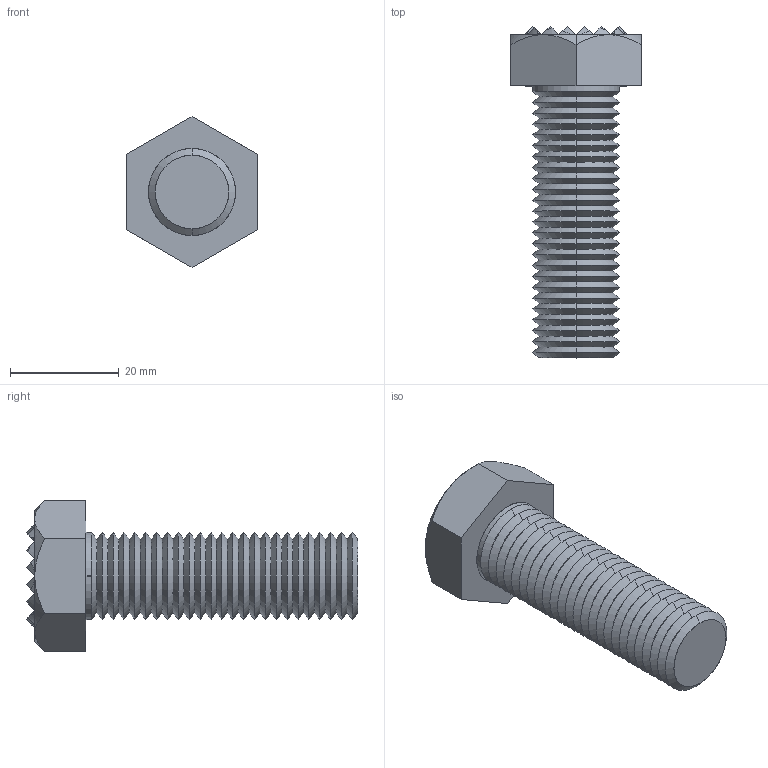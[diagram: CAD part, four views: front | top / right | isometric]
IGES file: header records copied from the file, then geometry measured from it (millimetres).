
Start section: SolidWorks IGES file using analytic representation for surfaces
Global section: file name: C:\Documents and Settings\IANO\Desktop\Temp File\Process pending\NEW\35400_v2\35400_v2_20170704_IGES\35400.W0012.igs; native system: SolidWorks 2009; preprocessor: SolidWorks 2009; author: IANO; date: 170703.082232; units: millimetre
Bounding box: 24 x 61 x 27.71 mm (x, y, z)
Surface area: 5500 mm2 (no closed solid volume)
Topology: 0 solids, 0 shells, 264 faces, 1197 edges, 1197 vertices
Faces by surface type: bspline 137, revolution 127
